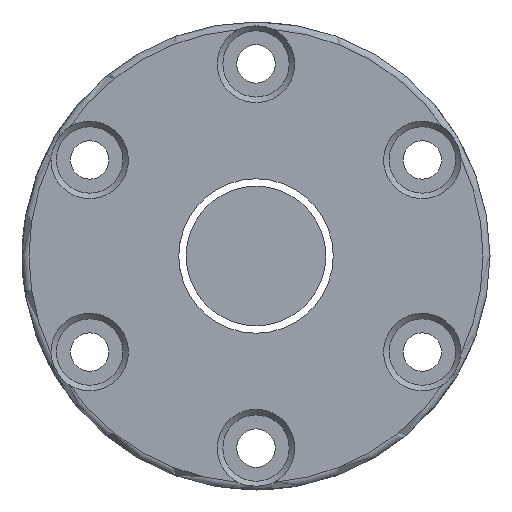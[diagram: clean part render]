
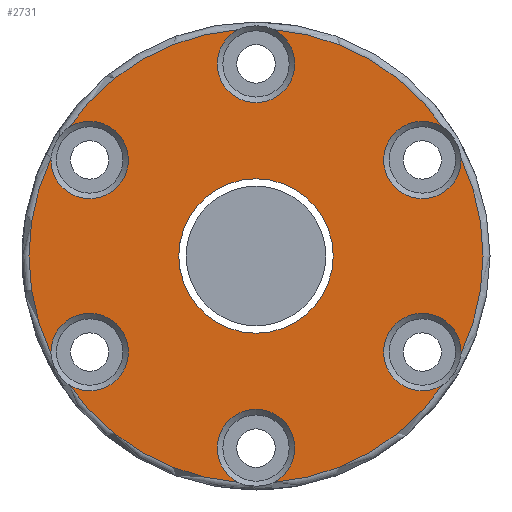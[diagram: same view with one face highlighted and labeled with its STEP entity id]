
A CAD part, left-side view. The second image highlights one B-rep face of the part: STEP entity #2731.
In plain terms, the highlighted planar face has unit normal (-1, 0, 0).
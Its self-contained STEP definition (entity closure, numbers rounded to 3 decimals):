
#6 = AXIS2_PLACEMENT_3D ( 'NONE', #1351, #1140, #589 ) ;
#36 = DIRECTION ( 'NONE',  ( 0., 0., 1. ) ) ;
#52 = CIRCLE ( 'NONE', #2607, 32.5 ) ;
#106 = CIRCLE ( 'NONE', #2353, 32.5 ) ;
#107 = DIRECTION ( 'NONE',  ( 0., 0., 1. ) ) ;
#121 = DIRECTION ( 'NONE',  ( 1., 0., 0. ) ) ;
#133 = DIRECTION ( 'NONE',  ( 1., 0., 0. ) ) ;
#138 = FACE_BOUND ( 'NONE', #1170, .T. ) ;
#150 = VERTEX_POINT ( 'NONE', #2683 ) ;
#329 = DIRECTION ( 'NONE',  ( 0., 0., 1. ) ) ;
#367 = VERTEX_POINT ( 'NONE', #1244 ) ;
#383 = CARTESIAN_POINT ( 'NONE',  ( -57., -23.816, -13.75 ) ) ;
#390 = FACE_OUTER_BOUND ( 'NONE', #1280, .T. ) ;
#416 = ORIENTED_EDGE ( 'NONE', *, *, #2529, .T. ) ;
#511 = EDGE_CURVE ( 'NONE', #614, #1572, #1328, .T. ) ;
#528 = DIRECTION ( 'NONE',  ( 0., 0., 1. ) ) ;
#538 = ORIENTED_EDGE ( 'NONE', *, *, #511, .T. ) ;
#583 = DIRECTION ( 'NONE',  ( 0., 0., 1. ) ) ;
#589 = DIRECTION ( 'NONE',  ( 0., 0., 1. ) ) ;
#596 = VERTEX_POINT ( 'NONE', #725 ) ;
#614 = VERTEX_POINT ( 'NONE', #1452 ) ;
#670 = CIRCLE ( 'NONE', #1927, 11.05 ) ;
#701 = ORIENTED_EDGE ( 'NONE', *, *, #2967, .T. ) ;
#725 = CARTESIAN_POINT ( 'NONE',  ( -57., -2.617, -32.394 ) ) ;
#747 = DIRECTION ( 'NONE',  ( -1., 0., 0. ) ) ;
#757 = VERTEX_POINT ( 'NONE', #805 ) ;
#766 = EDGE_CURVE ( 'NONE', #1572, #901, #2122, .T. ) ;
#794 = DIRECTION ( 'NONE',  ( -1., 0., 0. ) ) ;
#802 = CIRCLE ( 'NONE', #1209, 5.55 ) ;
#803 = CARTESIAN_POINT ( 'NONE',  ( -57., 23.816, -13.75 ) ) ;
#805 = CARTESIAN_POINT ( 'NONE',  ( -57., 0., -11.05 ) ) ;
#870 = ORIENTED_EDGE ( 'NONE', *, *, #766, .T. ) ;
#884 = VERTEX_POINT ( 'NONE', #1294 ) ;
#888 = CARTESIAN_POINT ( 'NONE',  ( -57., 0., -27.5 ) ) ;
#901 = VERTEX_POINT ( 'NONE', #1329 ) ;
#936 = CARTESIAN_POINT ( 'NONE',  ( -57., 29.363, 13.931 ) ) ;
#956 = CIRCLE ( 'NONE', #3068, 5.55 ) ;
#963 = EDGE_CURVE ( 'NONE', #367, #150, #1777, .T. ) ;
#965 = CARTESIAN_POINT ( 'NONE',  ( -57., 0., 0. ) ) ;
#967 = EDGE_CURVE ( 'NONE', #2394, #1296, #1078, .T. ) ;
#1013 = DIRECTION ( 'NONE',  ( 0., 0., 1. ) ) ;
#1014 = ORIENTED_EDGE ( 'NONE', *, *, #2723, .T. ) ;
#1017 = DIRECTION ( 'NONE',  ( -1., 0., 0. ) ) ;
#1019 = CARTESIAN_POINT ( 'NONE',  ( -57., -26.746, -18.463 ) ) ;
#1054 = CARTESIAN_POINT ( 'NONE',  ( -57., 2.617, -32.394 ) ) ;
#1078 = CIRCLE ( 'NONE', #1824, 5.55 ) ;
#1140 = DIRECTION ( 'NONE',  ( -1., 0., 0. ) ) ;
#1170 = EDGE_LOOP ( 'NONE', ( #2717 ) ) ;
#1209 = AXIS2_PLACEMENT_3D ( 'NONE', #1722, #1535, #329 ) ;
#1244 = CARTESIAN_POINT ( 'NONE',  ( -57., 29.363, -13.931 ) ) ;
#1270 = EDGE_CURVE ( 'NONE', #757, #757, #670, .T. ) ;
#1280 = EDGE_LOOP ( 'NONE', ( #538, #870, #416, #1014, #2060, #3021, #2528, #701, #3077, #3008, #2875, #2623 ) ) ;
#1292 = EDGE_CURVE ( 'NONE', #1592, #596, #1480, .T. ) ;
#1294 = CARTESIAN_POINT ( 'NONE',  ( -57., -29.363, 13.931 ) ) ;
#1296 = VERTEX_POINT ( 'NONE', #1593 ) ;
#1298 = CARTESIAN_POINT ( 'NONE',  ( -57., 0., 0. ) ) ;
#1317 = DIRECTION ( 'NONE',  ( 0., 0., 1. ) ) ;
#1328 = CIRCLE ( 'NONE', #3083, 5.55 ) ;
#1329 = CARTESIAN_POINT ( 'NONE',  ( -57., 26.746, 18.463 ) ) ;
#1351 = CARTESIAN_POINT ( 'NONE',  ( -57., 33.5, 0. ) ) ;
#1452 = CARTESIAN_POINT ( 'NONE',  ( -57., -2.617, 32.394 ) ) ;
#1480 = CIRCLE ( 'NONE', #1678, 5.55 ) ;
#1500 = CARTESIAN_POINT ( 'NONE',  ( -57., 0., 0. ) ) ;
#1523 = AXIS2_PLACEMENT_3D ( 'NONE', #965, #2887, #1013 ) ;
#1535 = DIRECTION ( 'NONE',  ( 1., 0., 0. ) ) ;
#1545 = DIRECTION ( 'NONE',  ( 1., 0., 0. ) ) ;
#1572 = VERTEX_POINT ( 'NONE', #2643 ) ;
#1592 = VERTEX_POINT ( 'NONE', #1054 ) ;
#1593 = CARTESIAN_POINT ( 'NONE',  ( -57., -29.363, -13.931 ) ) ;
#1609 = CARTESIAN_POINT ( 'NONE',  ( -57., -26.746, 18.463 ) ) ;
#1678 = AXIS2_PLACEMENT_3D ( 'NONE', #888, #2248, #3010 ) ;
#1708 = CIRCLE ( 'NONE', #2506, 32.5 ) ;
#1722 = CARTESIAN_POINT ( 'NONE',  ( -57., 23.816, 13.75 ) ) ;
#1777 = CIRCLE ( 'NONE', #2422, 5.55 ) ;
#1824 = AXIS2_PLACEMENT_3D ( 'NONE', #383, #133, #583 ) ;
#1858 = CIRCLE ( 'NONE', #2206, 32.5 ) ;
#1862 = DIRECTION ( 'NONE',  ( -1., 0., 0. ) ) ;
#1927 = AXIS2_PLACEMENT_3D ( 'NONE', #1298, #1545, #3028 ) ;
#2017 = DIRECTION ( 'NONE',  ( 0., 0., 1. ) ) ;
#2029 = DIRECTION ( 'NONE',  ( 0., 0., 1. ) ) ;
#2060 = ORIENTED_EDGE ( 'NONE', *, *, #963, .T. ) ;
#2065 = DIRECTION ( 'NONE',  ( -1., 0., 0. ) ) ;
#2079 = EDGE_CURVE ( 'NONE', #1296, #884, #106, .T. ) ;
#2122 = CIRCLE ( 'NONE', #1523, 32.5 ) ;
#2149 = EDGE_CURVE ( 'NONE', #884, #2784, #956, .T. ) ;
#2186 = DIRECTION ( 'NONE',  ( 1., 0., 0. ) ) ;
#2193 = CARTESIAN_POINT ( 'NONE',  ( -57., 0., 0. ) ) ;
#2206 = AXIS2_PLACEMENT_3D ( 'NONE', #2599, #747, #3110 ) ;
#2208 = AXIS2_PLACEMENT_3D ( 'NONE', #2888, #1862, #2869 ) ;
#2248 = DIRECTION ( 'NONE',  ( 1., 0., 0. ) ) ;
#2264 = CARTESIAN_POINT ( 'NONE',  ( -57., -23.816, 13.75 ) ) ;
#2277 = DIRECTION ( 'NONE',  ( 1., 0., 0. ) ) ;
#2282 = PLANE ( 'NONE',  #6 ) ;
#2303 = EDGE_CURVE ( 'NONE', #2784, #614, #1858, .T. ) ;
#2353 = AXIS2_PLACEMENT_3D ( 'NONE', #1500, #1017, #528 ) ;
#2394 = VERTEX_POINT ( 'NONE', #1019 ) ;
#2417 = CARTESIAN_POINT ( 'NONE',  ( -57., 0., 27.5 ) ) ;
#2422 = AXIS2_PLACEMENT_3D ( 'NONE', #803, #2277, #2029 ) ;
#2446 = EDGE_CURVE ( 'NONE', #150, #1592, #1708, .T. ) ;
#2506 = AXIS2_PLACEMENT_3D ( 'NONE', #2193, #794, #107 ) ;
#2528 = ORIENTED_EDGE ( 'NONE', *, *, #1292, .T. ) ;
#2529 = EDGE_CURVE ( 'NONE', #901, #3051, #802, .T. ) ;
#2599 = CARTESIAN_POINT ( 'NONE',  ( -57., 0., 0. ) ) ;
#2607 = AXIS2_PLACEMENT_3D ( 'NONE', #3044, #2065, #1317 ) ;
#2610 = CIRCLE ( 'NONE', #2208, 32.5 ) ;
#2623 = ORIENTED_EDGE ( 'NONE', *, *, #2303, .T. ) ;
#2643 = CARTESIAN_POINT ( 'NONE',  ( -57., 2.617, 32.394 ) ) ;
#2683 = CARTESIAN_POINT ( 'NONE',  ( -57., 26.746, -18.463 ) ) ;
#2717 = ORIENTED_EDGE ( 'NONE', *, *, #1270, .T. ) ;
#2723 = EDGE_CURVE ( 'NONE', #3051, #367, #52, .T. ) ;
#2731 = ADVANCED_FACE ( 'NONE', ( #390, #138 ), #2282, .T. ) ;
#2784 = VERTEX_POINT ( 'NONE', #1609 ) ;
#2869 = DIRECTION ( 'NONE',  ( 0., 0., 1. ) ) ;
#2875 = ORIENTED_EDGE ( 'NONE', *, *, #2149, .T. ) ;
#2887 = DIRECTION ( 'NONE',  ( -1., 0., 0. ) ) ;
#2888 = CARTESIAN_POINT ( 'NONE',  ( -57., 0., 0. ) ) ;
#2967 = EDGE_CURVE ( 'NONE', #596, #2394, #2610, .T. ) ;
#3008 = ORIENTED_EDGE ( 'NONE', *, *, #2079, .T. ) ;
#3010 = DIRECTION ( 'NONE',  ( 0., 0., 1. ) ) ;
#3021 = ORIENTED_EDGE ( 'NONE', *, *, #2446, .T. ) ;
#3028 = DIRECTION ( 'NONE',  ( 0., 0., -1. ) ) ;
#3044 = CARTESIAN_POINT ( 'NONE',  ( -57., 0., 0. ) ) ;
#3051 = VERTEX_POINT ( 'NONE', #936 ) ;
#3068 = AXIS2_PLACEMENT_3D ( 'NONE', #2264, #121, #2017 ) ;
#3077 = ORIENTED_EDGE ( 'NONE', *, *, #967, .T. ) ;
#3083 = AXIS2_PLACEMENT_3D ( 'NONE', #2417, #2186, #36 ) ;
#3110 = DIRECTION ( 'NONE',  ( 0., 0., 1. ) ) ;
